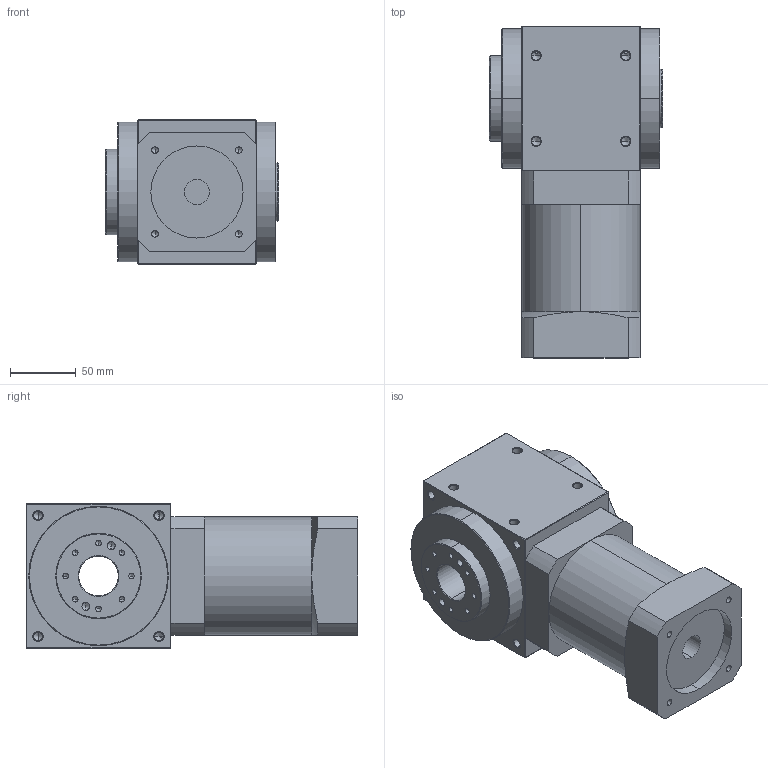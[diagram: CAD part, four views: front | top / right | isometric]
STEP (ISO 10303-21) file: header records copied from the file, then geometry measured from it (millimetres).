
FILE_DESCRIPTION (( 'STEP AP214' ), '1' );
FILE_NAME ('RXW110AS-L1-RF-19-70-90-m5.STEP', '2020-11-24T06:02:27', ( '微软用户' ), ( '微软中国' ), 'SwSTEP 2.0', 'SolidWorks 2014', '' );
FILE_SCHEMA (( 'AUTOMOTIVE_DESIGN' ));
Length unit declared in the file: millimetre
Products named in the file (2): RXW110AS-L1-RF-19-70-90-m5
Bounding box: 131.5 x 252 x 110 mm (x, y, z)
Volume: 2227464.3 mm3; surface area: 163649.4 mm2
Topology: 2 solids, 2 shells, 265 faces, 644 edges, 348 vertices
Faces by surface type: cone 124, cylinder 94, plane 47
Entity records: 9682 total; most frequent: DIRECTION 1352, CARTESIAN_POINT 1327, ORIENTED_EDGE 1152, EDGE_CURVE 576, AXIS2_PLACEMENT_3D 533, VERTEX_POINT 348, EDGE_LOOP 308, VECTOR 286
